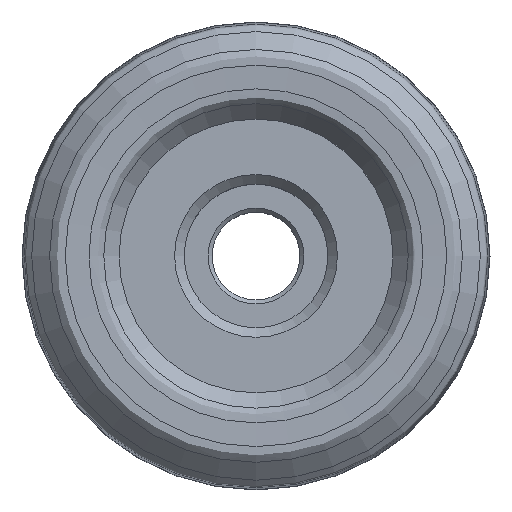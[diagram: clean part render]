
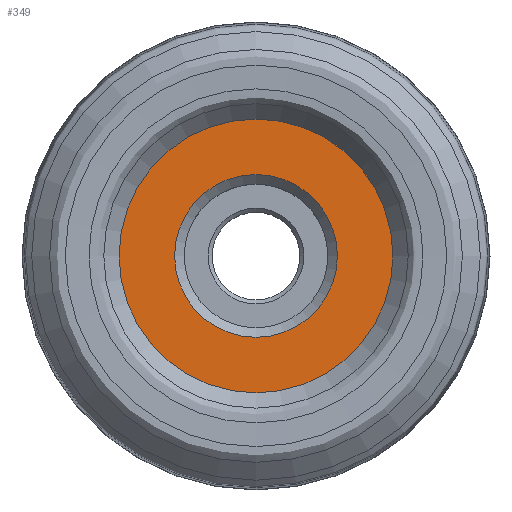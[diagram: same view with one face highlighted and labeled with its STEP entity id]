
A CAD part, top view. The second image highlights one B-rep face of the part: STEP entity #349.
In plain terms, the highlighted planar face has unit normal (0, 0, 1).
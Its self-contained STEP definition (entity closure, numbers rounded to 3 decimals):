
#251=FACE_BOUND('',#438,.T.);
#252=FACE_BOUND('',#439,.T.);
#349=ADVANCED_FACE('',(#251,#252),#391,.F.);
#391=PLANE('',#903);
#438=EDGE_LOOP('',(#579));
#439=EDGE_LOOP('',(#580));
#579=ORIENTED_EDGE('',*,*,#779,.T.);
#580=ORIENTED_EDGE('',*,*,#778,.F.);
#716=VERTEX_POINT('',#1244);
#717=VERTEX_POINT('',#1247);
#778=EDGE_CURVE('',#716,#716,#844,.T.);
#779=EDGE_CURVE('',#717,#717,#845,.T.);
#844=CIRCLE('',#900,20.099);
#845=CIRCLE('',#902,10.2);
#900=AXIS2_PLACEMENT_3D('',#1243,#1021,#1022);
#902=AXIS2_PLACEMENT_3D('',#1246,#1025,#1026);
#903=AXIS2_PLACEMENT_3D('',#1248,#1027,#1028);
#1021=DIRECTION('',(0.,0.,-1.));
#1022=DIRECTION('',(-1.,0.,0.));
#1025=DIRECTION('',(0.,0.,-1.));
#1026=DIRECTION('',(-1.,0.,0.));
#1027=DIRECTION('',(0.,0.,-1.));
#1028=DIRECTION('',(1.,0.,0.));
#1243=CARTESIAN_POINT('',(0.,0.,-3.));
#1244=CARTESIAN_POINT('',(-20.099,0.,-3.));
#1246=CARTESIAN_POINT('',(0.,0.,-3.));
#1247=CARTESIAN_POINT('',(-10.2,0.,-3.));
#1248=CARTESIAN_POINT('',(9.,0.,-3.));
